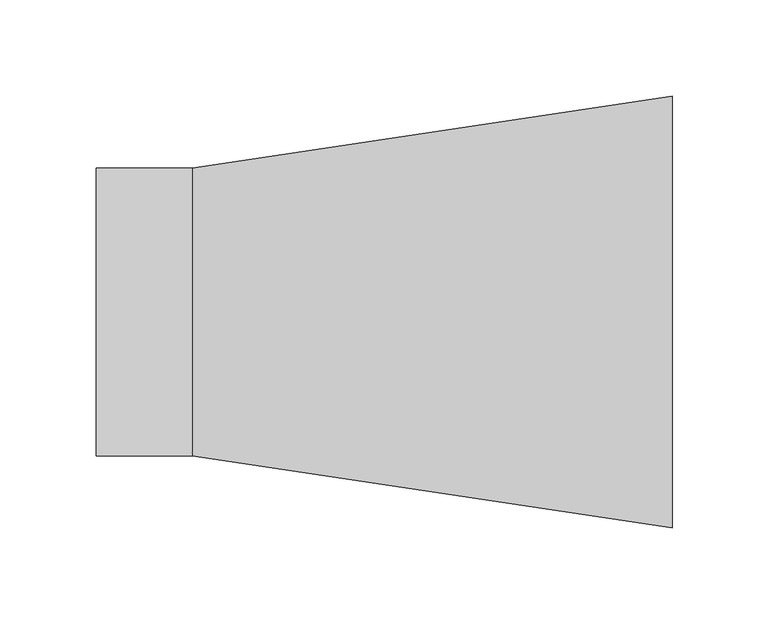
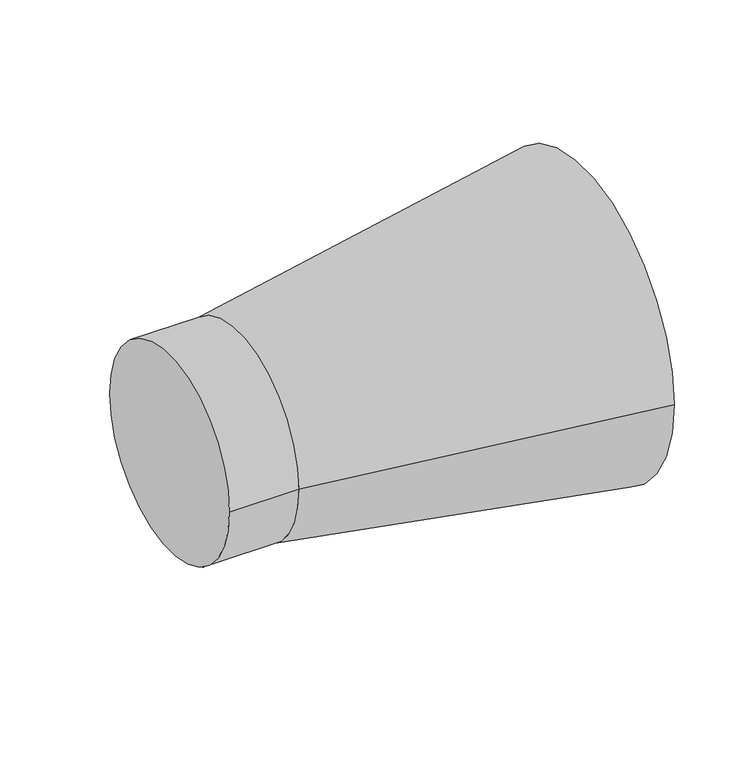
"""IFC4 building model written with IfcOpenShell, lengths in millimetres: air terminal geometry, Supply_Bell_Mouth_Grille : Supply_Bell_Mouth_Grille."""

import ifcopenshell
import ifcopenshell.guid

model = None  # the IFC model being written
_history = None  # IfcOwnerHistory: only IFC2X3 demands one
_inside = {}  # id of a spatial element -> (the spatial element, [elements in it])
_under = {}  # id of a project, library or spatial element -> (it, [spatial elements below it])
_declared = {}  # id of a project -> (the project, [libraries it declares])
_typed = {}  # id of a type object -> (the type object, [elements of that type])
_made_of = {}  # id of a material, layer set ... -> (it, [elements and type objects made of it])


def new_model(schema):
    """Start an empty IFC model of exactly this schema.

    Asked for "IFC4X3", IfcOpenShell would pick the latest addendum, in which some entities
    have other attributes; the version numbers below select the first issue.
    IFC2X3 requires an IfcOwnerHistory on every rooted entity: one is made here for all.
    """
    global model, _history
    if schema == "IFC4X3":
        model = ifcopenshell.file(schema_version=(4, 3, 0, 0))
    else:
        model = ifcopenshell.file(schema=schema)
    _inside.clear()
    _under.clear()
    _declared.clear()
    _typed.clear()
    _made_of.clear()
    _history = None
    if model.schema == "IFC2X3":
        org = make("IfcOrganization", Name="unknown")
        user = make(
            "IfcPersonAndOrganization",
            ThePerson=make("IfcPerson", FamilyName="unknown"),
            TheOrganization=org,
        )
        app = make(
            "IfcApplication",
            ApplicationDeveloper=org,
            Version="unknown",
            ApplicationFullName="unknown",
            ApplicationIdentifier="unknown",
        )
        _history = make(
            "IfcOwnerHistory",
            OwningUser=user,
            OwningApplication=app,
            ChangeAction="ADDED",
            CreationDate=0,
        )
    return model


def make(cls, **values):
    """One entity of the class cls with the attributes given. An attribute that is None is left unset."""
    return model.create_entity(
        cls, **{name: value for name, value in values.items() if value is not None}
    )


def rooted(cls, **values):
    """An entity with a GlobalId (a new one), such as an element, a storey or a relation."""
    return make(cls, GlobalId=ifcopenshell.guid.new(), OwnerHistory=_history, **values)


def si_unit(unit_type, name, prefix=None):
    """IfcSIUnit, for example si_unit("LENGTHUNIT", "METRE", prefix="MILLI")."""
    return make("IfcSIUnit", UnitType=unit_type, Prefix=prefix, Name=name)


def assignment(units):
    """IfcUnitAssignment: the units of a project."""
    return None if units is None else make("IfcUnitAssignment", Units=units)


def point(xyz):
    """IfcCartesianPoint."""
    return None if xyz is None else make("IfcCartesianPoint", Coordinates=xyz)


def direction(xyz):
    """IfcDirection."""
    return None if xyz is None else make("IfcDirection", DirectionRatios=xyz)


def frame(location, z_axis=None, x_axis=None):
    """IfcAxis2Placement3D, a coordinate frame: its origin and axes. An axis left out is left unset."""
    return make(
        "IfcAxis2Placement3D",
        Location=point(location),
        Axis=direction(z_axis),
        RefDirection=direction(x_axis),
    )


def frame_2d(location, x_axis=None):
    """IfcAxis2Placement2D, a coordinate frame in the plane: its origin and x axis."""
    return make(
        "IfcAxis2Placement2D", Location=point(location), RefDirection=direction(x_axis)
    )


def origin():
    """The frame at (0, 0, 0) with its axes left unset."""
    return frame((0.0, 0.0, 0.0))


def origin_2d():
    """The frame at (0, 0) in the plane with its x axis left unset."""
    return frame_2d((0.0, 0.0))


def place(relative_to, where):
    """IfcLocalPlacement: puts the frame where relative to a parent placement (None: the world)."""
    return make(
        "IfcLocalPlacement", PlacementRelTo=relative_to, RelativePlacement=where
    )


def context(
    kind, dimensions, precision=None, world=None, true_north=None, identifier=None
):
    """IfcGeometricRepresentationContext, for example the 3D "Model" context."""
    return make(
        "IfcGeometricRepresentationContext",
        ContextIdentifier=identifier,
        ContextType=kind,
        CoordinateSpaceDimension=dimensions,
        Precision=precision,
        WorldCoordinateSystem=world,
        TrueNorth=true_north,
    )


def project(units=None, contexts=None):
    """IfcProject with its units and contexts."""
    return rooted(
        "IfcProject",
        Name="project",
        RepresentationContexts=contexts,
        UnitsInContext=assignment(units),
    )


def spatial(cls, under=None, at=None, **own):
    """A site, building, storey or space (cls), placed at a placement, below another one or the project."""
    s = rooted(cls, ObjectPlacement=at, **own)
    if under is not None:
        _under.setdefault(under.id(), (under, []))[1].append(s)
    return s


def polyline(points):
    """IfcPolyline through the points."""
    return make("IfcPolyline", Points=[point(p) for p in points])


def circle_curve(where, radius):
    """IfcCircle in the frame where."""
    return make("IfcCircle", Position=where, Radius=radius)


def trimmed(basis, trim1, trim2, sense, master):
    """IfcTrimmedCurve: the piece of a basis curve between two trims."""
    return make(
        "IfcTrimmedCurve",
        BasisCurve=basis,
        Trim1=trim1,
        Trim2=trim2,
        SenseAgreement=sense,
        MasterRepresentation=master,
    )


def segment(curve, same_sense, transition):
    """IfcCompositeCurveSegment."""
    return make(
        "IfcCompositeCurveSegment",
        Transition=transition,
        SameSense=same_sense,
        ParentCurve=curve,
    )


def composite_curve(segments, self_intersect=None):
    """IfcCompositeCurve: segments joined end to end."""
    return make("IfcCompositeCurve", Segments=segments, SelfIntersect=self_intersect)


def outline(outer, holes=None, kind="AREA"):
    """IfcArbitraryClosedProfileDef: a profile drawn as a closed curve; with holes, ...WithVoids."""
    if holes is None:
        return make("IfcArbitraryClosedProfileDef", ProfileType=kind, OuterCurve=outer)
    return make(
        "IfcArbitraryProfileDefWithVoids",
        ProfileType=kind,
        OuterCurve=outer,
        InnerCurves=holes,
    )


def extrude(swept, where, along, depth):
    """IfcExtrudedAreaSolid: the profile swept, set in the frame where, extruded along a direction by depth."""
    return make(
        "IfcExtrudedAreaSolid",
        SweptArea=swept,
        Position=where,
        ExtrudedDirection=direction(along),
        Depth=depth,
    )


def shape(context_of_items, identifier, shape_type, items):
    """IfcShapeRepresentation: the items that make up one representation, for example the "Body"."""
    return make(
        "IfcShapeRepresentation",
        ContextOfItems=context_of_items,
        RepresentationIdentifier=identifier,
        RepresentationType=shape_type,
        Items=items,
    )


def source(mapping_origin, context_of_items, identifier, shape_type, items):
    """IfcRepresentationMap: a shape defined once, which mapped items show again and again."""
    return make(
        "IfcRepresentationMap",
        MappingOrigin=mapping_origin,
        MappedRepresentation=shape(context_of_items, identifier, shape_type, items),
    )


def transform(
    local_origin,
    x_axis=None,
    y_axis=None,
    z_axis=None,
    scale=None,
    scale2=None,
    scale3=None,
    uniform=True,
):
    """IfcCartesianTransformationOperator3D, or its non-uniform kind. x_axis, y_axis, z_axis: its Axis1, 2, 3."""
    if uniform:
        return make(
            "IfcCartesianTransformationOperator3D",
            Axis1=direction(x_axis),
            Axis2=direction(y_axis),
            LocalOrigin=point(local_origin),
            Scale=scale,
            Axis3=direction(z_axis),
        )
    return make(
        "IfcCartesianTransformationOperator3DnonUniform",
        Axis1=direction(x_axis),
        Axis2=direction(y_axis),
        LocalOrigin=point(local_origin),
        Scale=scale,
        Axis3=direction(z_axis),
        Scale2=scale2,
        Scale3=scale3,
    )


def mapped(mapping_source, mapping_target):
    """IfcMappedItem: shows the shape of a source again, moved by a transform."""
    return make(
        "IfcMappedItem", MappingSource=mapping_source, MappingTarget=mapping_target
    )


def made_of(thing, what):
    """Note that an element or type object is made of a material, layer set ...; save() writes the relation."""
    if what is not None:
        _made_of.setdefault(what.id(), (what, []))[1].append(thing)
    return thing


def element(
    cls,
    number,
    at=None,
    inside=None,
    cuts=None,
    type_object=None,
    material=None,
    context=None,
    identifier="Body",
    shape_type=None,
    held_by="IfcProductDefinitionShape",
    body=None,
    shapes=None,
    **own,
):
    """One element of the class cls, such as IfcWall. Its Tag is "e" and its number.

    at: its placement. inside: the storey or other place that contains it. cuts: it is an
    opening in that element (IfcRelVoidsElement). A single representation is given by context,
    identifier, shape_type and body (its items); several are given by shapes. held_by: the class
    of the entity that holds the representations. save() writes the other relations.
    """
    e = rooted(cls, Tag="e%d" % number, ObjectPlacement=at, **own)
    if body is not None:
        shapes = [shape(context, identifier, shape_type, body)]
    if shapes is not None:
        e.Representation = make(held_by, Representations=shapes)
    if inside is not None:
        _inside.setdefault(inside.id(), (inside, []))[1].append(e)
    if cuts is not None:
        rooted(
            "IfcRelVoidsElement", RelatingBuildingElement=cuts, RelatedOpeningElement=e
        )
    if type_object is not None:
        _typed.setdefault(type_object.id(), (type_object, []))[1].append(e)
    return made_of(e, material)


def aggregate(whole, parts):
    """IfcRelAggregates: a whole, such as a stair, and the parts it consists of."""
    return rooted("IfcRelAggregates", RelatingObject=whole, RelatedObjects=parts)


def save(model, path):
    """Write the relations noted so far, then the file.

    IfcRelAggregates (storeys below a building ...), IfcRelContainedInSpatialStructure (elements
    in a storey), IfcRelDefinesByType, IfcRelAssociatesMaterial and IfcRelDeclares: one each for
    every whole, place, type object, material and project.
    """
    for whole, parts in _under.values():
        aggregate(whole, parts)
    for where, things in _inside.values():
        rooted(
            "IfcRelContainedInSpatialStructure",
            RelatedElements=things,
            RelatingStructure=where,
        )
    for kind, things in _typed.values():
        rooted("IfcRelDefinesByType", RelatedObjects=things, RelatingType=kind)
    for what, things in _made_of.values():
        rooted("IfcRelAssociatesMaterial", RelatedObjects=things, RelatingMaterial=what)
    for by, libraries in _declared.values():
        rooted("IfcRelDeclares", RelatingContext=by, RelatedDefinitions=libraries)
    model.write(path)


def plane_surface(at):
    """IfcPlane: the flat surface through the origin of the frame at, square to its z axis."""
    return make("IfcPlane", Position=at)


def revolved_surface(curve, axis_point, axis_direction):
    """IfcSurfaceOfRevolution: the curve turned about the line through axis_point along axis_direction."""
    return make(
        "IfcSurfaceOfRevolution",
        SweptCurve=make("IfcArbitraryOpenProfileDef", ProfileType="CURVE", Curve=curve),
        AxisPosition=make("IfcAxis1Placement", Location=point(axis_point), Axis=direction(axis_direction)),
    )


def advanced_brep(points, edges, surfaces, faces):
    """IfcAdvancedBrep: a solid bounded by faces that lie on surfaces and meet in shared edges.

    An edge is (start, end): straight between two places in points (the first is 0);
    or (start, end, curve); or (start, end, curve, False) where it runs against its curve.
    A face is (place in surfaces, loops), or (place, loops, False) where it looks against
    its surface's normal. A loop lists edges by number (the first is 1), with a minus sign
    where the edge is run from its end to its start. The first loop is the outer one.
    """
    corners = [point(p) for p in points]
    vertices = [make("IfcVertexPoint", VertexGeometry=c) for c in corners]
    made = []
    for start, end, *more in edges:
        made.append(
            make(
                "IfcEdgeCurve",
                EdgeStart=vertices[start],
                EdgeEnd=vertices[end],
                EdgeGeometry=more[0] if more else make("IfcPolyline", Points=[corners[start], corners[end]]),
                SameSense=more[1] if len(more) > 1 else True,
            )
        )
    hull = []
    for where, loops, *sense in faces:
        bounds = []
        for j, loop in enumerate(loops):
            ring = [make("IfcOrientedEdge", EdgeElement=made[abs(k) - 1], Orientation=k > 0) for k in loop]
            bounds.append(
                make(
                    "IfcFaceOuterBound" if j == 0 else "IfcFaceBound",
                    Bound=make("IfcEdgeLoop", EdgeList=ring),
                    Orientation=True,
                )
            )
        hull.append(make("IfcAdvancedFace", Bounds=bounds, FaceSurface=surfaces[where], SameSense=sense[0] if sense else True))
    return make("IfcAdvancedBrep", Outer=make("IfcClosedShell", CfsFaces=hull))


def air_terminal_0d1c431e(model_context):
    return source(origin(), model_context, "Body", "SolidModel", [
        extrude(outline(composite_curve([segment(trimmed(circle_curve(origin_2d(), 75.0), [point((75.0, 0.0))], [point((-75.0, 0.0))], False, "CARTESIAN"), True, "CONTINUOUS"), segment(trimmed(circle_curve(origin_2d(), 75.0), [point((-75.0, 0.0))], [point((75.0, 0.0))], False, "CARTESIAN"), True, "CONTINUOUS")], self_intersect=False)), frame((-50.0, 0.0, 0.0), z_axis=(1.0, 0.0, 0.0), x_axis=(0.0, 1.0, 0.0)), (0.0, 0.0, 1.0), 50.0),
        advanced_brep(
        [(250.0, 112.5, 0.0), (250.0, -112.5, 0.0), (0.0, 75.0, 0.0), (0.0, -75.0, 0.0)],
        [
            (0, 1, circle_curve(frame((250.0, 0.0, 0.0), z_axis=(1.0, 0.0, 0.0), x_axis=(0.0, -1.0, 0.0)), 112.5)),
            (1, 0, circle_curve(frame((250.0, 0.0, 0.0), z_axis=(1.0, 0.0, 0.0), x_axis=(0.0, 1.0, 0.0)), 112.5)),
            (2, 3, circle_curve(frame((0.0, 0.0, 0.0), z_axis=(-1.0, 0.0, 0.0), x_axis=(0.0, 1.0, 0.0)), 75.0)),
            (3, 2, circle_curve(frame((0.0, 0.0, 0.0), z_axis=(-1.0, 0.0, 0.0), x_axis=(0.0, -1.0, 0.0)), 75.0)),
            (2, 0),
            (1, 3),
        ],
        [
            plane_surface(frame((250.0, 0.0, 0.0), z_axis=(1.0, 0.0, 0.0), x_axis=(0.0, 0.0, -1.0))),
            plane_surface(frame((0.0, 0.0, 0.0), z_axis=(-1.0, 0.0, 0.0), x_axis=(0.0, 0.0, -1.0))),
            revolved_surface(polyline([(0.0, 75.0, 0.0), (250.0, 112.5, 0.0)]), (-500.0, 0.0, 0.0), (1.0, 0.0, 0.0)),
            revolved_surface(polyline([(0.0, -75.0, 0.0), (250.0, -112.5, 0.0)]), (-500.0, 0.0, 0.0), (1.0, 0.0, 0.0)),
        ],
        [
            (0, [[1, 2]]),
            (1, [[3, 4]]),
            (2, [[5, -2, 6, -3]]),
            (3, [[-6, -1, -5, -4]]),
        ],
    ),
    ])


if __name__ == "__main__":
    model = new_model("IFC4")
    model_context = context("Model", 3, world=origin())
    ifc_project = project(units=[si_unit("LENGTHUNIT", "METRE", prefix="MILLI")], contexts=[model_context])
    site = spatial("IfcSite", under=ifc_project)
    building = spatial("IfcBuilding", under=site)
    placement = place(None, origin())
    air_terminal_shape = air_terminal_0d1c431e(model_context)
    element("IfcAirTerminal", 1, ObjectType="Supply_Bell_Mouth_Grille : Supply_Bell_Mouth_Grille", at=placement, inside=building, context=model_context, shape_type="MappedRepresentation", body=[
        mapped(air_terminal_shape, transform((0.0, 0.0, 0.0), x_axis=(1.0, 0.0, 0.0), y_axis=(0.0, 1.0, 0.0), z_axis=(0.0, 0.0, 1.0))),
    ])
    save(model, "model.ifc")
